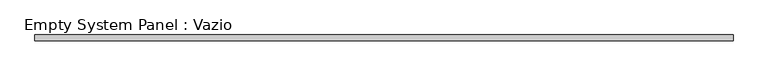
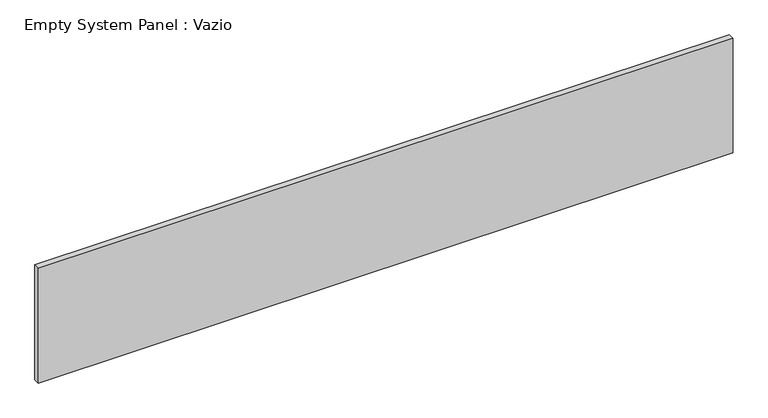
"""IFC4 building model written with IfcOpenShell, lengths in millimetres: plate geometry, Empty System Panel : Vazio."""

from ifc_helpers import new_model, si_unit, origin, origin_with_axes, place, context, project, spatial, polyline, outline, extrude, source, transform, mapped, element, save


def empty_system_panel_vazio_0e0d2d6c(model_context):
    return source(origin(), model_context, "Body", "SweptSolid", [
        extrude(outline(polyline([(5749.938529, 50.0), (-5749.938529, 50.0), (-5749.938529, 150.0), (5749.938529, 150.0), (5749.938529, 50.0)])), origin_with_axes(), (0.0, 0.0, 1.0), 2005.5613018),
    ])


if __name__ == "__main__":
    model = new_model("IFC4")
    model_context = context("Model", 3, world=origin())
    ifc_project = project(units=[si_unit("LENGTHUNIT", "METRE", prefix="MILLI")], contexts=[model_context])
    site = spatial("IfcSite", under=ifc_project)
    building = spatial("IfcBuilding", under=site)
    placement = place(None, origin())
    empty_system_panel_vazio_shape = empty_system_panel_vazio_0e0d2d6c(model_context)
    element("IfcPlate", 1, ObjectType="Empty System Panel : Vazio", at=placement, inside=building, context=model_context, shape_type="MappedRepresentation", body=[
        mapped(empty_system_panel_vazio_shape, transform((0.0, 0.0, 0.0), x_axis=(1.0, 0.0, 0.0), y_axis=(0.0, 1.0, 0.0), z_axis=(0.0, 0.0, 1.0))),
    ])
    save(model, "model.ifc")
